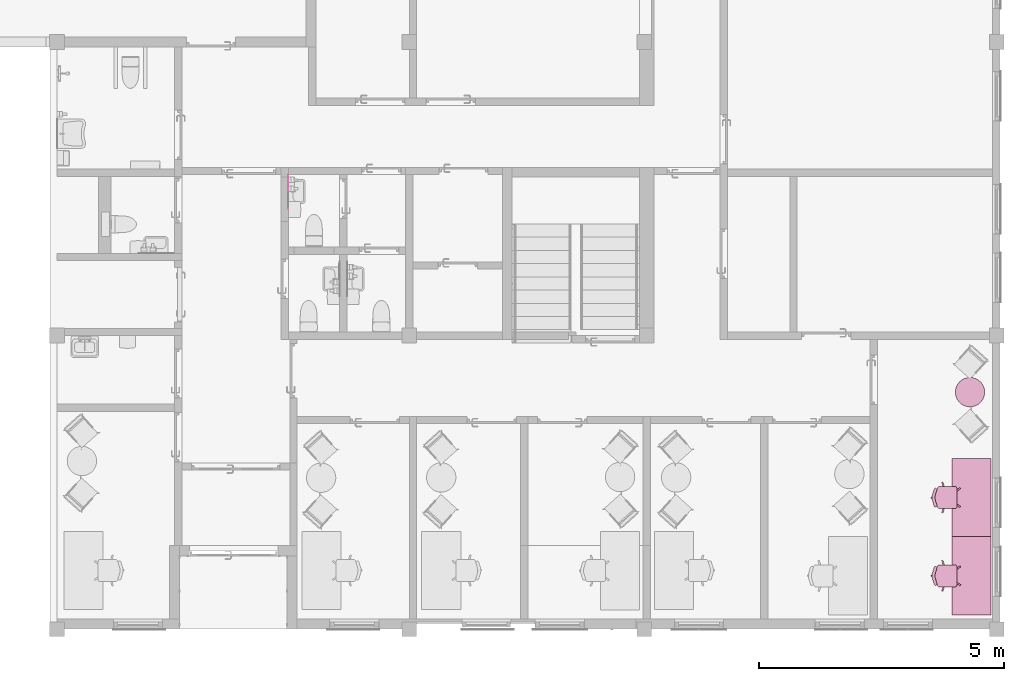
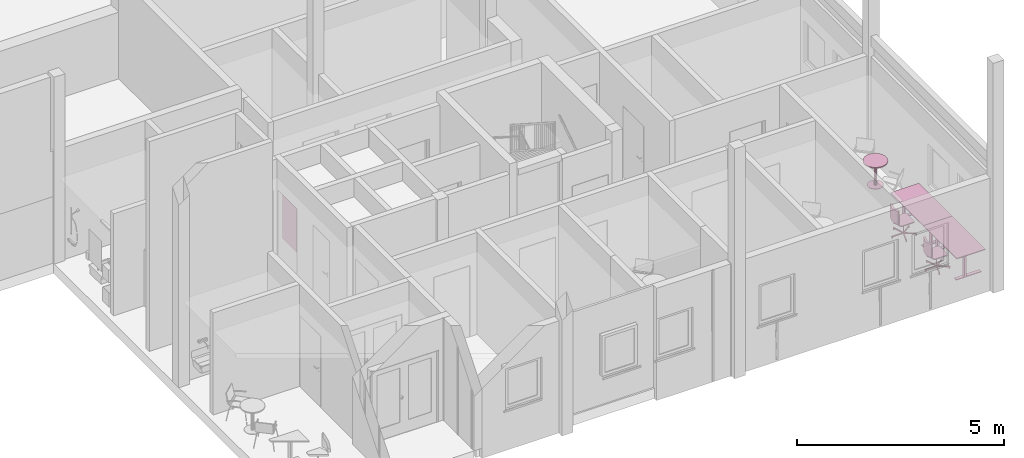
# One storey, part 52 of 58: 6 furnishings.
"""IFC2X3 building model written with IfcOpenShell, lengths in millimetres."""

from ifc_helpers import new_model, entity, si_unit, converted_unit, derived_unit, direction, frame, frame_2d, origin, origin_2d_with_axis, place, context, subcontext, project, spatial, polyline, circle_curve, parameter, trimmed, segment, composite_curve, rectangle, circle, outline, extrude, source, transform, mapped, material, material_list, type_object, type_shapes, element, save


model = new_model("IFC2X3")

# Units and contexts
model_context = context("Model", 3, precision=0.01, world=origin(), true_north=direction((0.7716245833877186, 0.6360782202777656)))
body_context = subcontext(model_context, "Body", "Model", "MODEL_VIEW")
ifc_project = project(units=[si_unit("LENGTHUNIT", "METRE", prefix="MILLI"), si_unit("AREAUNIT", "SQUARE_METRE"), converted_unit("PLANEANGLEUNIT", "DEGREE", entity("IfcPlaneAngleMeasure", 0.017453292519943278), si_unit("PLANEANGLEUNIT", "RADIAN"), dimensions=[0, 0, 0, 0, 0, 0, 0]), derived_unit("THERMALTRANSMITTANCEUNIT", [(si_unit("MASSUNIT", "GRAM", prefix="KILO"), 1), (si_unit("THERMODYNAMICTEMPERATUREUNIT", "KELVIN"), -1), (si_unit("TIMEUNIT", "SECOND"), -3)])], contexts=[model_context])

# Site, building, storey, space
site_placement = place(None, origin())
site = spatial("IfcSite", under=ifc_project, at=site_placement, Name="Default", CompositionType="ELEMENT")
building_placement = place(site_placement, origin())
building = spatial("IfcBuilding", under=site, at=building_placement, CompositionType="ELEMENT")
storey_placement = place(building_placement, frame((0.0, 0.0, 31140.0)))
storey = spatial("IfcBuildingStorey", under=building, at=storey_placement, Name="PLAN U1", CompositionType="ELEMENT", Elevation=31140.000000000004)
space_1_placement = place(storey_placement, origin())
space_1 = spatial("IfcSpace", under=storey, at=space_1_placement, Name="B5-321", CompositionType="ELEMENT", InteriorOrExteriorSpace="INTERNAL")

# Furnishings
ifc_material_1 = material(Name="Metall")
ifc_material_2 = material(Name="Stoff")
ifc_material_list_1 = material_list([ifc_material_1, ifc_material_2])
furniture_type_1 = type_object("IfcFurnitureType", Name="Kontorstol_uten_arml:Kontorstol", AssemblyPlace="NOTDEFINED", material=ifc_material_list_1)
shared_shape_1 = source(origin(), body_context, "Body", "SweptSolid", [
    extrude(rectangle(XDim=23.3196738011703, YDim=29.99387697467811, at=frame_2d((3.375077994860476e-14, 1.7763568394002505e-15), x_axis=(1.0, 0.0))), frame((-0.08594931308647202, -458.13719107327, 420.0), z_axis=(0.0, 0.0, 1.0), x_axis=(0.0, 1.0, 0.0)), (0.0, 0.0, 1.0), 79.99999999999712),
    extrude(outline(composite_curve([segment(trimmed(circle_curve(frame_2d((165.0817705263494, 15.912125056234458), x_axis=(1.0, 0.0)), 30.0), [parameter(295.76627852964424)], [parameter(98.60793662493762)], True, "PARAMETER"), True, "CONTINUOUS"), segment(polyline([(160.59160138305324, 45.57419479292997), (58.70469351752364, 14.060049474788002)]), True, "CONTINUOUS"), segment(trimmed(circle_curve(frame_2d((-0.3939245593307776, 205.1290248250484), x_axis=(1.0, 0.0)), 199.99999999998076), [parameter(252.8128926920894)], [parameter(287.1871075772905)], True, "PARAMETER"), False, "CONTINUOUS"), segment(polyline([(-59.492541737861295, 14.0600491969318), (-159.8037548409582, 45.08682349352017)]), True, "CONTINUOUS"), segment(trimmed(circle_curve(frame_2d((-164.29392269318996, 15.42475356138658), x_axis=(1.0, 0.0)), 30.0), [parameter(81.3920658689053)], [parameter(244.23371951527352)], True, "PARAMETER"), True, "CONTINUOUS"), segment(polyline([(-177.33495783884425, -11.592489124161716), (-59.492540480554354, -48.04175509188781)]), True, "CONTINUOUS"), segment(trimmed(circle_curve(frame_2d((-0.3939233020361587, 143.0272205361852), x_axis=(1.0, 0.0)), 199.99999999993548), [parameter(252.81289269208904)], [parameter(287.18710771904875)], True, "PARAMETER"), True, "CONTINUOUS"), segment(polyline([(58.70469524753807, -48.04175466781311), (178.12280475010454, -11.105118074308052)]), True, "CONTINUOUS")], self_intersect=False)), frame((0.39392509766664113, -452.30864581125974, 500.0)), (0.0, 0.0, 1.0), 384.9999999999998),
    extrude(outline(composite_curve([segment(polyline([(-185.0, -246.35232221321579), (185.0, -246.35232221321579)]), True, "CONTINUOUS"), segment(trimmed(circle_curve(frame_2d((185.0, -206.35232221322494), x_axis=(-1.0, 0.0)), 39.99999999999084), [parameter(89.99999999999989)], [parameter(180.00000000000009)], True, "PARAMETER"), True, "CONTINUOUS"), segment(polyline([(225.0, -206.35232221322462), (225.0, 106.42448376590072)]), True, "CONTINUOUS"), segment(trimmed(circle_curve(frame_2d((184.42156675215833, 110.53750606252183), x_axis=(-1.0, 0.0)), 40.78634828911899), [parameter(174.21227731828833)], [parameter(256.6772413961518)], True, "PARAMETER"), True, "CONTINUOUS"), segment(polyline([(193.82022104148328, 150.22618838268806), (59.098617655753, 191.8962741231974)]), True, "CONTINUOUS"), segment(trimmed(circle_curve(frame_2d((-4.212244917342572e-07, 0.8272987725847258), x_axis=(-1.0, 0.0)), 200.00000000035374), [parameter(252.81289242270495)], [parameter(287.1871075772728)], True, "PARAMETER"), True, "CONTINUOUS"), segment(polyline([(-59.09861849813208, 191.896274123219), (-193.8202209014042, 150.226188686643)]), True, "CONTINUOUS"), segment(trimmed(circle_curve(frame_2d((-184.37947209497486, 110.49005175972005), x_axis=(-1.0, 0.0)), 40.84223691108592), [parameter(283.3648812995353)], [parameter(354.02729163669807)], True, "PARAMETER"), True, "CONTINUOUS"), segment(polyline([(-225.0, 114.73987977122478), (-225.0, -206.35232221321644)]), True, "CONTINUOUS"), segment(trimmed(circle_curve(frame_2d((-185.0, -206.35232221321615), x_axis=(-1.0, 0.0)), 39.99999999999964), [parameter(359.9999999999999)], [parameter(89.99999999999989)], True, "PARAMETER"), True, "CONTINUOUS")], self_intersect=False)), frame((1.1704745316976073e-07, -246.35232221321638, 420.0), z_axis=(0.0, 0.0, 1.0), x_axis=(-1.0, 0.0, 0.0)), (0.0, 0.0, 1.0), 30.000000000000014),
    extrude(circle(Radius=19.999999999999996, at=frame_2d((0.0, -3.383959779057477e-14), x_axis=(1.0, 0.0))), frame((-194.12496236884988, 45.75823201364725, 20.0), z_axis=(0.8091973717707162, 0.5875369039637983, 0.0), x_axis=(-0.5875369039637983, 0.8091973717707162, 0.0)), (0.0, 0.0, 1.0), 29.630650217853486),
    extrude(circle(Radius=19.999999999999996, at=frame_2d((0.0, -8.882894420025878e-14), x_axis=(1.0, 0.0))), frame((-15.095151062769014, -506.38378426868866, 20.0), z_axis=(0.9999999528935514, -0.0003069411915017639, 0.0), x_axis=(-0.0003069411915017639, -0.9999999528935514, 0.0)), (0.0, 0.0, 1.0), 29.999999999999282),
    extrude(circle(Radius=19.999999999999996, at=frame_2d((0.0, -8.882894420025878e-14), x_axis=(1.0, 0.0))), frame((-299.4877855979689, -277.8259021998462, 20.0), z_axis=(0.3087250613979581, -0.9511513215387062, 0.0), x_axis=(-0.9511513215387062, -0.3087250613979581, 0.0)), (0.0, 0.0, 1.0), 29.99999999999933),
    extrude(circle(Radius=19.999999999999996, at=frame_2d((6.842675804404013e-15, -8.882894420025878e-14), x_axis=(1.0, 0.0))), frame((194.42294713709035, 45.53042146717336, 20.0), z_axis=(-0.8088365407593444, 0.5880335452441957, 0.0), x_axis=(0.5880335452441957, 0.8088365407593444, 0.0)), (0.0, 0.0, 1.0), 29.999999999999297),
    extrude(circle(Radius=19.999999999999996, at=frame_2d((0.0, -8.882894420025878e-14), x_axis=(1.0, 0.0))), frame((290.1584691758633, -306.53858576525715, 20.0), z_axis=(0.30930889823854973, 0.9509616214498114, 0.0), x_axis=(0.9509616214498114, -0.30930889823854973, 0.0)), (0.0, 0.0, 1.0), 29.999999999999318),
    extrude(circle(Radius=11.0, at=frame_2d((-8.56791021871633e-15, -6.228970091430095e-15), x_axis=(1.0, 0.0))), frame((0.0, -196.38840298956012, 248.23543396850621), z_axis=(0.0, 0.0, 1.0), x_axis=(0.8088365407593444, -0.5880335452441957, 0.0)), (0.0, 0.0, 1.0), 171.76456603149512),
    extrude(circle(Radius=14.999999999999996, at=frame_2d((1.2051828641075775e-14, 8.761819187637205e-15), x_axis=(1.0, 0.0))), frame((0.0, -196.38840298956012, 70.0), z_axis=(0.0, 0.0, 1.0), x_axis=(0.8088365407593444, -0.5880335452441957, 0.0)), (0.0, 0.0, 1.0), 178.2354339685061),
    extrude(outline(polyline([(20.59372489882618, -14.81532510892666), (330.00800060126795, -14.81532510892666), (330.00800060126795, 14.815325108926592), (20.593724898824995, 14.815325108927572), (116.2494564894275, 309.2133954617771), (87.71776100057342, 318.48390529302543), (-7.87796608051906, 24.270509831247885), (-258.1508287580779, 206.10438817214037), (-275.7843863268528, 181.83387834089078), (-25.511523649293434, 0.0), (-275.78438632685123, -181.83387834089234), (-258.1508287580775, -206.10438817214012), (-7.877966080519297, -24.27050983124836), (87.71776100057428, -318.4839052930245), (116.24945648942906, -309.2133954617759), (20.59372489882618, -14.81532510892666)])), frame((0.004700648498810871, -196.39487705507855, 40.0), z_axis=(0.0, 0.0, 1.0), x_axis=(-0.5875369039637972, 0.8091973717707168, 0.0)), (0.0, 0.0, 1.0), 29.999999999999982),
])
type_shapes(furniture_type_1, [shared_shape_1])
for number, where, z_axis, x_axis in (
    (1, (277105.25734760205, 54405.457568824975, 0.0), (0.0, 0.0, 1.0), (0.0, -1.0, 0.0)),
    (2, (277105.25734760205, 56005.457568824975, 0.0), (0.0, 0.0, 1.0), (0.0, -1.0, 0.0)),
):
    element("IfcFurnishingElement", number, at=place(space_1_placement, frame(where, z_axis=z_axis, x_axis=x_axis)), inside=space_1, type_object=furniture_type_1, material=ifc_material_list_1, Name="Kontorstol_uten_arml:Kontorstol", ObjectType="Kontorstol_uten_arml:Kontorstol", context=body_context, shape_type="MappedRepresentation", body=[
        mapped(shared_shape_1, transform((0.0, 0.0, 0.0), scale=1.0)),
    ])
ifc_material_3 = material(Name="Plate")
ifc_material_list_2 = material_list([ifc_material_3, ifc_material_1])
furniture_type_2 = type_object("IfcFurnitureType", Name="Bord-rundt:Bord, Ø600", AssemblyPlace="NOTDEFINED", material=ifc_material_list_2)
shared_shape_2 = source(origin(), body_context, "Body", "SweptSolid", [
    extrude(circle(Radius=300.0, at=frame_2d((0.0, -4.846633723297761e-13), x_axis=(1.0, 0.0))), frame((0.0, 0.0, 690.0)), (0.0, 0.0, 1.0), 29.99999999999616),
    extrude(circle(Radius=35.0, at=frame_2d((-4.3957322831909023e-16, -5.6544060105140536e-14), x_axis=(1.0, 0.0))), frame((0.0, 0.0, 10.0)), (0.0, 0.0, 1.0), 680.0000000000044),
    extrude(circle(Radius=200.0, at=frame_2d((-8.4218585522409e-15, -3.2310891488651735e-13), x_axis=(1.0, 0.0))), origin(), (0.0, 0.0, 1.0), 10.000000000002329),
])
type_shapes(furniture_type_2, [shared_shape_2])
furnishing_1_placement = place(space_1_placement, frame((277373.56723801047, 58159.192226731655, 0.0), z_axis=(0.0, 0.0, 1.0), x_axis=(0.0, -1.0, 0.0)))
element("IfcFurnishingElement", 3, at=furnishing_1_placement, inside=space_1, type_object=furniture_type_2, material=ifc_material_list_2, Name="Bord-rundt:Bord, Ø600", ObjectType="Bord-rundt:Bord, Ø600", context=body_context, shape_type="MappedRepresentation", body=[
    mapped(shared_shape_2, transform((0.0, 0.0, 0.0), scale=1.0)),
])
ifc_material_list_3 = material_list([ifc_material_1, ifc_material_3])
furniture_type_3 = type_object("IfcFurnitureType", Name="Arbeidsbord_elektrisk_hevsenk:Arbbord 800x1600", AssemblyPlace="NOTDEFINED", material=ifc_material_list_3)
shared_shape_3 = source(origin(), body_context, "Body", "SweptSolid", [
    extrude(rectangle(XDim=99.99999999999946, YDim=50.0, at=origin_2d_with_axis()), frame((650.0, -300.0, 20.0)), (0.0, 0.0, 1.0), 674.9999999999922),
    extrude(rectangle(XDim=99.99999999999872, YDim=50.0, at=frame_2d((3.552713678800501e-14, 0.0), x_axis=(1.0, 0.0))), frame((-650.0, -300.0, 20.0)), (0.0, 0.0, 1.0), 674.9999999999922),
    extrude(rectangle(XDim=99.99999999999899, YDim=699.9999999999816, at=frame_2d((3.552713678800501e-14, 0.0), x_axis=(1.0, 0.0))), frame((650.0, -400.0, 0.0), z_axis=(0.0, 0.0, 1.0), x_axis=(-1.0, 0.0, 0.0)), (0.0, 0.0, 1.0), 19.999999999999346),
    extrude(rectangle(XDim=100.00000000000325, YDim=699.999999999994, at=frame_2d((0.0, -5.684341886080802e-14), x_axis=(1.0, 0.0))), frame((-650.0, -400.0, 0.0), z_axis=(0.0, 0.0, 1.0), x_axis=(-1.0, 0.0, 0.0)), (0.0, 0.0, 1.0), 19.999999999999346),
    extrude(rectangle(XDim=1599.9999999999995, YDim=799.9999999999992, at=origin_2d_with_axis()), frame((0.0, -400.0, 695.0), z_axis=(0.0, 0.0, 1.0), x_axis=(-1.0, 0.0, 0.0)), (0.0, 0.0, 1.0), 25.00000000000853),
    extrude(rectangle(XDim=1599.9999999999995, YDim=799.9999999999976, at=origin_2d_with_axis()), frame((0.0, -400.0, 695.0), z_axis=(0.0, 0.0, 1.0), x_axis=(-1.0, 0.0, 0.0)), (0.0, 0.0, 1.0), 25.00000000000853),
])
type_shapes(furniture_type_3, [shared_shape_3])
for number, where, z_axis, x_axis, name in (
    (4, (277005.25734760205, 54405.45756882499, 0.0), (0.0, 0.0, 1.0), (0.0, 1.0, 0.0), "Arbeidsbord_elektrisk_hevsenk:Arbbord 800x1600"),
    (5, (277005.25734760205, 56005.45756882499, 0.0), (0.0, 0.0, 1.0), (0.0, 1.0, 0.0), "Arbeidsbord_elektrisk_hevsenk:Arbbord 800x1600"),
):
    element("IfcFurnishingElement", number, at=place(space_1_placement, frame(where, z_axis=z_axis, x_axis=x_axis)), inside=space_1, type_object=furniture_type_3, material=ifc_material_list_3, Name=name, ObjectType="Arbeidsbord_elektrisk_hevsenk:Arbbord 800x1600", context=body_context, shape_type="MappedRepresentation", body=[
        mapped(shared_shape_3, transform((0.0, 0.0, 0.0), scale=1.0)),
    ])

# Space
space_2_placement = place(storey_placement, origin())
space_2 = spatial("IfcSpace", under=storey, at=space_2_placement, Name="WC", CompositionType="ELEMENT", InteriorOrExteriorSpace="INTERNAL")

# Furnishing
ifc_material_4 = material(Name="<Unnamed>")
furniture_type_4 = type_object("IfcFurnitureType", Name="V2 - Håndvaskgarnityr type 2, bakplate:Håndvaskgarnityr type 2", AssemblyPlace="NOTDEFINED", material=ifc_material_4)
shared_shape_4 = source(origin(), body_context, "Body", "SweptSolid", [
    extrude(rectangle(XDim=2.0, YDim=700.0000000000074, at=origin_2d_with_axis()), frame((0.0, 4.0, 610.0), z_axis=(0.0, 0.0, 1.0), x_axis=(0.0, 1.0, 0.0)), (0.0, 0.0, 1.0), 1289.9999999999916),
])
type_shapes(furniture_type_4, [shared_shape_4])
furnishing_2_placement = place(space_2_placement, frame((263447.924446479, 62254.50163955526, 0.0), z_axis=(0.0, 0.0, 1.0), x_axis=(0.0, 1.0, 0.0)))
element("IfcFurnishingElement", 6, at=furnishing_2_placement, inside=space_2, type_object=furniture_type_4, material=ifc_material_4, Name="V2 - Håndvaskgarnityr type 2, bakplate:Håndvaskgarnityr type 2", ObjectType="V2 - Håndvaskgarnityr type 2, bakplate:Håndvaskgarnityr type 2", context=body_context, shape_type="MappedRepresentation", body=[
    mapped(shared_shape_4, transform((0.0, 0.0, 0.0), scale=1.0)),
])

save(model, "model.ifc")
